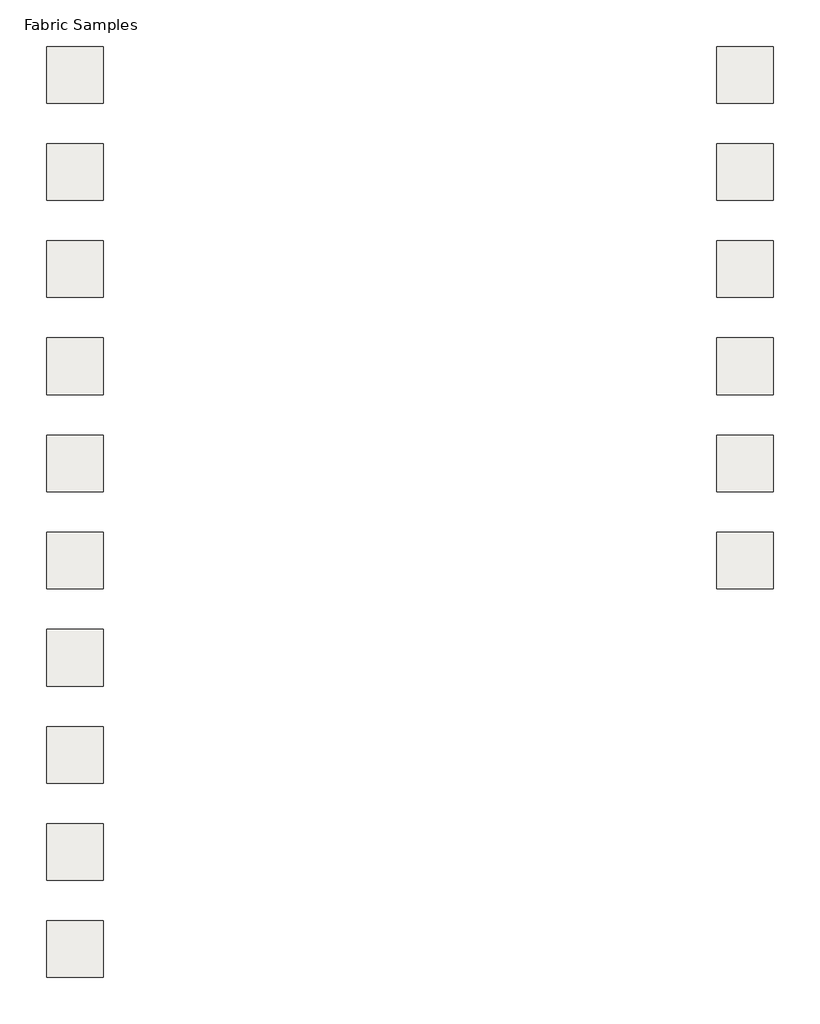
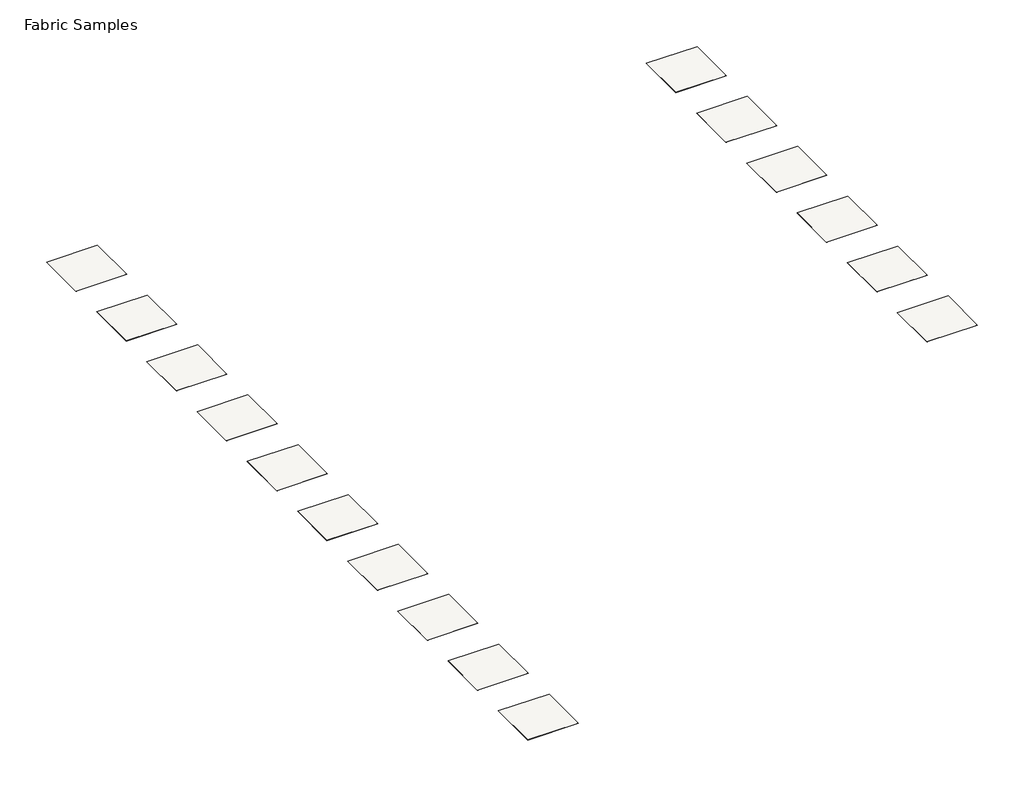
# One storey: 16 coverings.
"""IFC4 building model written with IfcOpenShell, lengths in millimetres."""

from ifc_helpers import new_model, si_unit, frame, origin, place, context, project, spatial, polyline, outline, extrude, element, save

model = new_model("IFC4")

# Units and contexts
model_context = context("Model", 3, world=origin())
ifc_project = project(units=[si_unit("LENGTHUNIT", "METRE", prefix="MILLI")], contexts=[model_context])

# Site, building, storey
site = spatial("IfcSite", under=ifc_project)
building = spatial("IfcBuilding", under=site)
storey = spatial("IfcBuildingStorey", under=building, Name="Fabric Samples", Elevation=0.0)

# Coverings
placement = place(None, origin())
element("IfcCovering", 1, ObjectType="CamiraFabrics_TxtlRllCvrngs_24/7Flax_Vernal_FYR02", at=placement, inside=storey, context=model_context, shape_type="SweptSolid", body=[
    extrude(outline(polyline([(515.5073044, 1029.1514654), (515.5073044, -370.8485346), (-884.4926956, -370.8485346), (-884.4926956, 1029.1514654), (515.5073044, 1029.1514654)])), frame((0.0, 0.0, -2.0), z_axis=(0.0, 0.0, 1.0), x_axis=(1.0, 0.0, 0.0)), (0.0, 0.0, 1.0), 2.0),
])
element("IfcCovering", 2, ObjectType="CamiraFabrics_TxtlRllCvrngs_24/7Flax_Equinox_FYR03", at=placement, inside=storey, context=model_context, shape_type="SweptSolid", body=[
    extrude(outline(polyline([(515.5073044, -1370.8485346), (515.5073044, -2770.8485346), (-884.4926956, -2770.8485346), (-884.4926956, -1370.8485346), (515.5073044, -1370.8485346)])), frame((0.0, 0.0, -2.0), z_axis=(0.0, 0.0, 1.0), x_axis=(1.0, 0.0, 0.0)), (0.0, 0.0, 1.0), 2.0),
])
element("IfcCovering", 3, ObjectType="CamiraFabrics_TxtlRllCvrngs_24/7Flax_Chronology_FYR04", at=placement, inside=storey, context=model_context, shape_type="SweptSolid", body=[
    extrude(outline(polyline([(515.5073044, -3770.8485346), (515.5073044, -5170.8485346), (-884.4926956, -5170.8485346), (-884.4926956, -3770.8485346), (515.5073044, -3770.8485346)])), frame((0.0, 0.0, -2.0), z_axis=(0.0, 0.0, 1.0), x_axis=(1.0, 0.0, 0.0)), (0.0, 0.0, 1.0), 2.0),
])
element("IfcCovering", 4, ObjectType="CamiraFabrics_TxtlRllCvrngs_24/7Flax_Olympiad_FYR05", at=placement, inside=storey, context=model_context, shape_type="SweptSolid", body=[
    extrude(outline(polyline([(515.5073044, -6170.8485346), (515.5073044, -7570.8485346), (-884.4926956, -7570.8485346), (-884.4926956, -6170.8485346), (515.5073044, -6170.8485346)])), frame((0.0, 0.0, -2.0), z_axis=(0.0, 0.0, 1.0), x_axis=(1.0, 0.0, 0.0)), (0.0, 0.0, 1.0), 2.0),
])
element("IfcCovering", 5, ObjectType="CamiraFabrics_TxtlRllCvrngs_24/7Flax_Indiction_FYR06", at=placement, inside=storey, context=model_context, shape_type="SweptSolid", body=[
    extrude(outline(polyline([(515.5073044, -8570.8485346), (515.5073044, -9970.8485346), (-884.4926956, -9970.8485346), (-884.4926956, -8570.8485346), (515.5073044, -8570.8485346)])), frame((0.0, 0.0, -2.0), z_axis=(0.0, 0.0, 1.0), x_axis=(1.0, 0.0, 0.0)), (0.0, 0.0, 1.0), 2.0),
])
element("IfcCovering", 6, ObjectType="CamiraFabrics_TxtlRllCvrngs_24/7Flax_Zone_FYR09", at=placement, inside=storey, context=model_context, shape_type="SweptSolid", body=[
    extrude(outline(polyline([(515.5073044, -10970.8485346), (515.5073044, -12370.8485346), (-884.4926956, -12370.8485346), (-884.4926956, -10970.8485346), (515.5073044, -10970.8485346)])), frame((0.0, 0.0, -2.0), z_axis=(0.0, 0.0, 1.0), x_axis=(1.0, 0.0, 0.0)), (0.0, 0.0, 1.0), 2.0),
])
element("IfcCovering", 7, ObjectType="CamiraFabrics_TxtlRllCvrngs_24/7Flax_Future_FYR10", at=placement, inside=storey, context=model_context, shape_type="SweptSolid", body=[
    extrude(outline(polyline([(515.5073044, -13370.8485346), (515.5073044, -14770.8485346), (-884.4926956, -14770.8485346), (-884.4926956, -13370.8485346), (515.5073044, -13370.8485346)])), frame((0.0, 0.0, -2.0), z_axis=(0.0, 0.0, 1.0), x_axis=(1.0, 0.0, 0.0)), (0.0, 0.0, 1.0), 2.0),
])
element("IfcCovering", 8, ObjectType="CamiraFabrics_TxtlRllCvrngs_24/7Flax_Continuance_FYR11", at=placement, inside=storey, context=model_context, shape_type="SweptSolid", body=[
    extrude(outline(polyline([(515.5073044, -15770.8485346), (515.5073044, -17170.8485346), (-884.4926956, -17170.8485346), (-884.4926956, -15770.8485346), (515.5073044, -15770.8485346)])), frame((0.0, 0.0, -2.0), z_axis=(0.0, 0.0, 1.0), x_axis=(1.0, 0.0, 0.0)), (0.0, 0.0, 1.0), 2.0),
])
element("IfcCovering", 9, ObjectType="CamiraFabrics_TxtlRllCvrngs_24/7Flax_Stint_FYR12", at=placement, inside=storey, context=model_context, shape_type="SweptSolid", body=[
    extrude(outline(polyline([(515.5073044, -18170.8485346), (515.5073044, -19570.8485346), (-884.4926956, -19570.8485346), (-884.4926956, -18170.8485346), (515.5073044, -18170.8485346)])), frame((0.0, 0.0, -2.0), z_axis=(0.0, 0.0, 1.0), x_axis=(1.0, 0.0, 0.0)), (0.0, 0.0, 1.0), 2.0),
])
element("IfcCovering", 10, ObjectType="CamiraFabrics_TxtlRllCvrngs_24/7Flax_Annual_FYR15", at=placement, inside=storey, context=model_context, shape_type="SweptSolid", body=[
    extrude(outline(polyline([(515.5073044, -20570.8485346), (515.5073044, -21970.8485346), (-884.4926956, -21970.8485346), (-884.4926956, -20570.8485346), (515.5073044, -20570.8485346)])), frame((0.0, 0.0, -2.0), z_axis=(0.0, 0.0, 1.0), x_axis=(1.0, 0.0, 0.0)), (0.0, 0.0, 1.0), 2.0),
])
element("IfcCovering", 11, ObjectType="CamiraFabrics_TxtlRllCvrngs_24/7Flax_Ancient_FYR16", at=placement, inside=storey, context=model_context, shape_type="SweptSolid", body=[
    extrude(outline(polyline([(17073.5462147, 1029.1514654), (17073.5462147, -370.8485346), (15673.5462147, -370.8485346), (15673.5462147, 1029.1514654), (17073.5462147, 1029.1514654)])), frame((0.0, 0.0, -2.0), z_axis=(0.0, 0.0, 1.0), x_axis=(1.0, 0.0, 0.0)), (0.0, 0.0, 1.0), 2.0),
])
element("IfcCovering", 12, ObjectType="CamiraFabrics_TxtlRllCvrngs_24/7Flax_Shift_FYR17", at=placement, inside=storey, context=model_context, shape_type="SweptSolid", body=[
    extrude(outline(polyline([(17073.5462147, -1370.8485346), (17073.5462147, -2770.8485346), (15673.5462147, -2770.8485346), (15673.5462147, -1370.8485346), (17073.5462147, -1370.8485346)])), frame((0.0, 0.0, -2.0), z_axis=(0.0, 0.0, 1.0), x_axis=(1.0, 0.0, 0.0)), (0.0, 0.0, 1.0), 2.0),
])
element("IfcCovering", 13, ObjectType="CamiraFabrics_TxtlRllCvrngs_24/7Flax_Eternity_FYR18", at=placement, inside=storey, context=model_context, shape_type="SweptSolid", body=[
    extrude(outline(polyline([(17073.5462147, -3770.8485346), (17073.5462147, -5170.8485346), (15673.5462147, -5170.8485346), (15673.5462147, -3770.8485346), (17073.5462147, -3770.8485346)])), frame((0.0, 0.0, -2.0), z_axis=(0.0, 0.0, 1.0), x_axis=(1.0, 0.0, 0.0)), (0.0, 0.0, 1.0), 2.0),
])
element("IfcCovering", 14, ObjectType="CamiraFabrics_TxtlRllCvrngs_24/7Flax_Quarter_FYR19", at=placement, inside=storey, context=model_context, shape_type="SweptSolid", body=[
    extrude(outline(polyline([(17073.5462147, -6170.8485346), (17073.5462147, -7570.8485346), (15673.5462147, -7570.8485346), (15673.5462147, -6170.8485346), (17073.5462147, -6170.8485346)])), frame((0.0, 0.0, -2.0), z_axis=(0.0, 0.0, 1.0), x_axis=(1.0, 0.0, 0.0)), (0.0, 0.0, 1.0), 2.0),
])
element("IfcCovering", 15, ObjectType="CamiraFabrics_TxtlRllCvrngs_24/7Flax_Linearity_FYR20", at=placement, inside=storey, context=model_context, shape_type="SweptSolid", body=[
    extrude(outline(polyline([(17073.5462147, -8570.8485346), (17073.5462147, -9970.8485346), (15673.5462147, -9970.8485346), (15673.5462147, -8570.8485346), (17073.5462147, -8570.8485346)])), frame((0.0, 0.0, -2.0), z_axis=(0.0, 0.0, 1.0), x_axis=(1.0, 0.0, 0.0)), (0.0, 0.0, 1.0), 2.0),
])
element("IfcCovering", 16, ObjectType="CamiraFabrics_TxtlRllCvrngs_24/7Flax_While_FYR21", at=placement, inside=storey, context=model_context, shape_type="SweptSolid", body=[
    extrude(outline(polyline([(17073.5462147, -10970.8485346), (17073.5462147, -12370.8485346), (15673.5462147, -12370.8485346), (15673.5462147, -10970.8485346), (17073.5462147, -10970.8485346)])), frame((0.0, 0.0, -2.0), z_axis=(0.0, 0.0, 1.0), x_axis=(1.0, 0.0, 0.0)), (0.0, 0.0, 1.0), 2.0),
])

save(model, "model.ifc")
